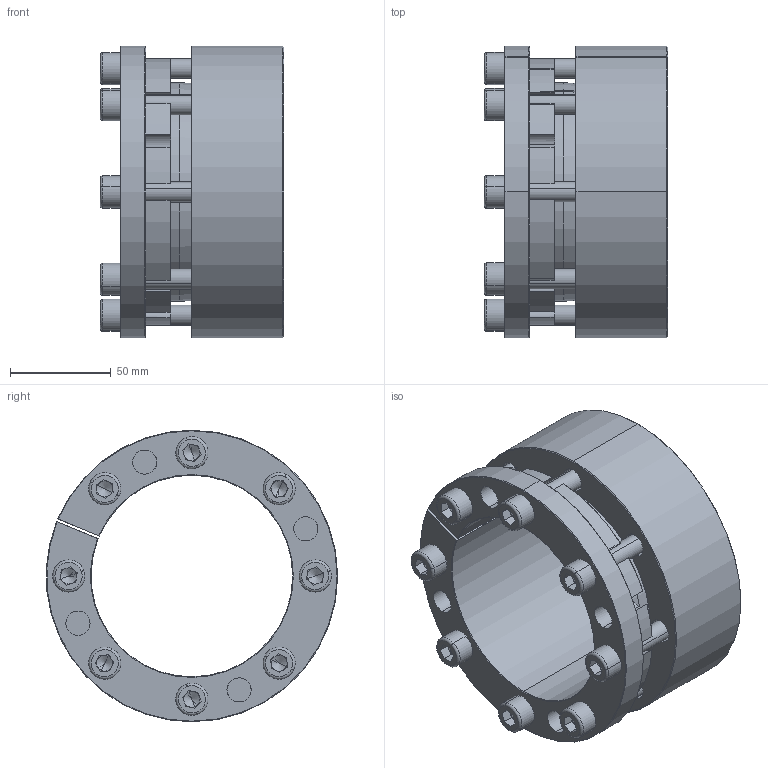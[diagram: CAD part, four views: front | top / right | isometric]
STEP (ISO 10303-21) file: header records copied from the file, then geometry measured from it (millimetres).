
FILE_DESCRIPTION (( 'STEP AP214' ), '1' );
FILE_NAME ('PL-H2 100-145.STEP', '2022-07-25T02:30:04', ( '' ), ( '' ), 'SwSTEP 2.0', 'SolidWorks 2022', '' );
FILE_SCHEMA (( 'AUTOMOTIVE_DESIGN' ));
Length unit declared in the file: millimetre
Products named in the file (1): PL-H2 100-145
Bounding box: 91.19 x 144.73 x 144.85 mm (x, y, z)
Volume: 548006.5 mm3; surface area: 130618.8 mm2
Topology: 1 solids, 1 shells, 319 faces, 815 edges, 502 vertices
Faces by surface type: plane 128, cylinder 97, cone 78, torus 16
Entity records: 9706 total; most frequent: DIRECTION 1770, CARTESIAN_POINT 1765, ORIENTED_EDGE 1598, EDGE_CURVE 799, AXIS2_PLACEMENT_3D 699, VERTEX_POINT 502, CIRCLE 379, VECTOR 372
